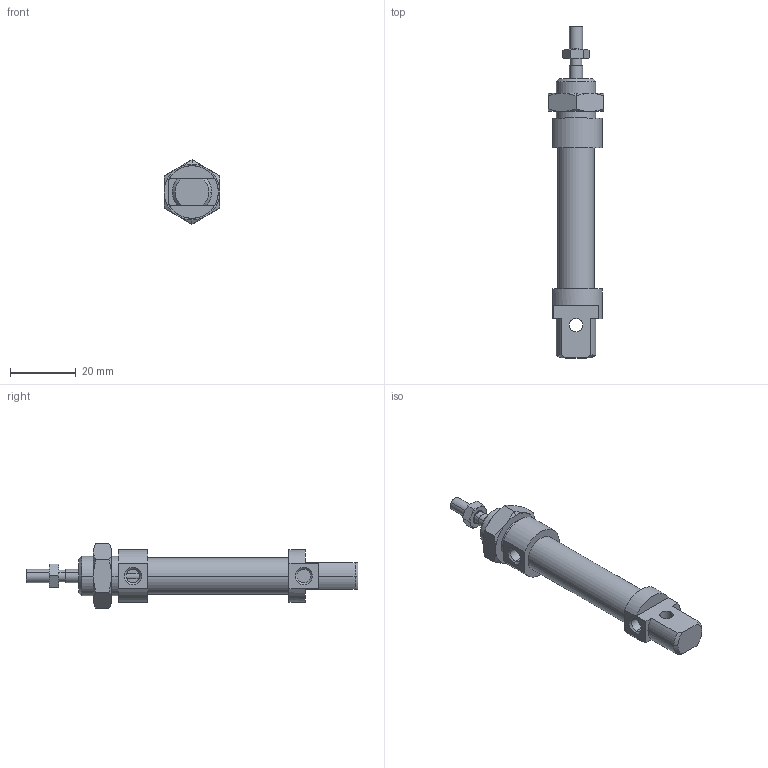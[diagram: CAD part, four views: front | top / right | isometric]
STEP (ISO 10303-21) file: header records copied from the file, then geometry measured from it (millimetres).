
FILE_DESCRIPTION((''),'2;1');
FILE_NAME('I:\DOC-EDP\Lib-3d\1200\CILINDRI\1280\1280_10_0015.stp','2003-04-07T14:45:17',('maffial1'),(''),'Autodesk Inventor (R) 6.0','Autodesk Inventor (R) 6.0','');
FILE_SCHEMA(('AUTOMOTIVE_DESIGN { 1 0 10303 214 1 1 1 1 }'));
Length unit declared in the file: millimetre
Products named in the file (5): 1280_10_0015; S1280_10_15; 1200_10_05; 1200_10_06; C1280_10_15
Assembly tree (4 placements, depth 2):
  1280_10_0015
    S1280_10_15
    1200_10_05
    1200_10_06
    C1280_10_15
Bounding box: 17 x 101 x 19.63 mm (x, y, z)
Volume: 10735.3 mm3; surface area: 6083.3 mm2
Topology: 4 solids, 4 shells, 117 faces, 261 edges, 158 vertices
Faces by surface type: cone 40, plane 34, cylinder 22, bspline 21
Entity records: 3582 total; most frequent: CARTESIAN_POINT 992, DIRECTION 531, ORIENTED_EDGE 522, EDGE_CURVE 261, AXIS2_PLACEMENT_3D 221, VERTEX_POINT 158, EDGE_LOOP 131, FACE_OUTER_BOUND 117
